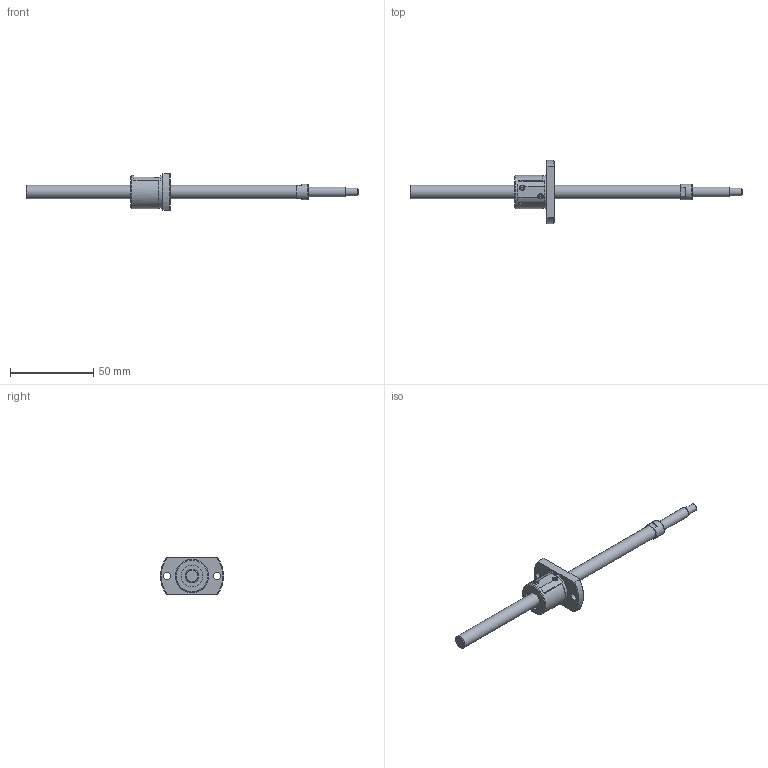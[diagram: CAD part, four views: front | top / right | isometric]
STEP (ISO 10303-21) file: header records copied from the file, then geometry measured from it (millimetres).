
FILE_DESCRIPTION( ( 'STEP AP214' ), '1' );
FILE_NAME( 'p:/temp/worker_8/1096_1344/app_71_12015063014054762319015260eae72_00_00_00_000/STEP/0-159R200C3A1X_63__2_14.stp', ' ', ( ' ' ), ( ' ' ), 'PSStep 15.0.47', 'PARTsolutions', ' ' );
FILE_SCHEMA( ( 'AUTOMOTIVE_DESIGN { 1 0 10303 214 1 1 1 1 }' ) );
Length unit declared in the file: millimetre
Products named in the file (3): 0-159R200C3A1X(63); _SG0802-159R200C3A_shaft; _SG0802_nut
Assembly tree (2 placements, depth 2):
  0-159R200C3A1X(63)
    _SG0802-159R200C3A_shaft
    _SG0802_nut
Bounding box: 200 x 38 x 22 mm (x, y, z)
Volume: 17599.3 mm3; surface area: 8875.7 mm2
Topology: 2 solids, 2 shells, 72 faces, 177 edges, 116 vertices
Faces by surface type: plane 35, cylinder 23, cone 13, torus 1
Full cylindrical faces by diameter (mm): 4.5 x3, 6 x1, 8 x2, 9.5 x1, 13 x2, 19.7 x1, 20 x1
Entity records: 2626 total; most frequent: CARTESIAN_POINT 401, DIRECTION 346, ORIENTED_EDGE 292, EDGE_CURVE 146, AXIS2_PLACEMENT_3D 143, EDGE_LOOP 106, VERTEX_POINT 106, FACE_OUTER_BOUND 84
